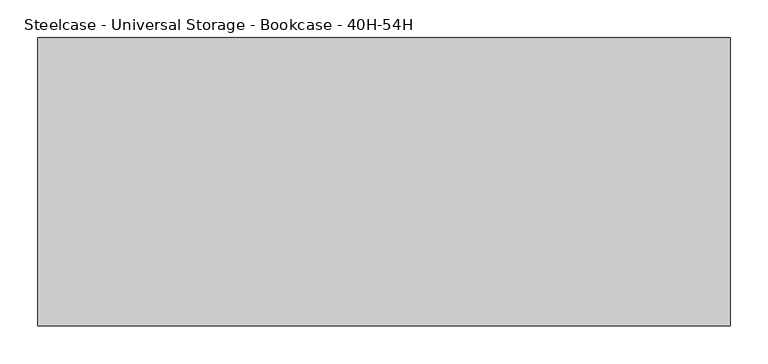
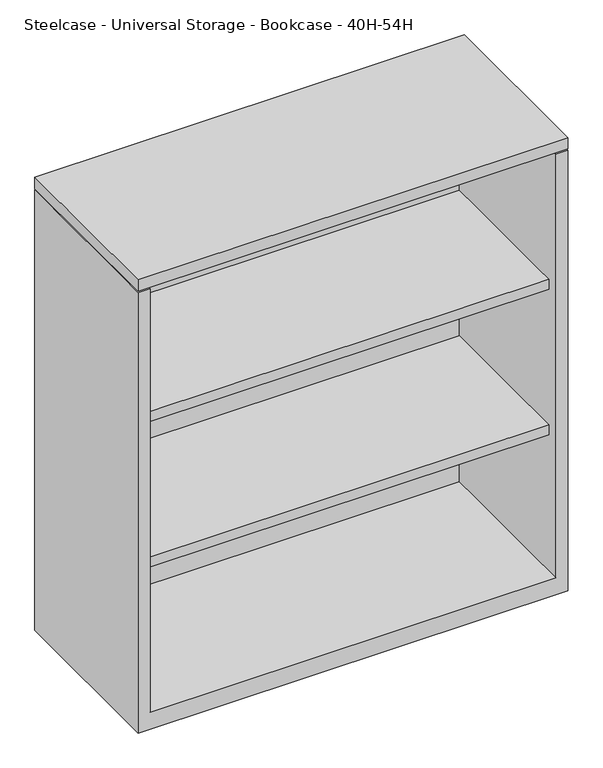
"""IFC4 building model written with IfcOpenShell, lengths in millimetres: furniture geometry, Steelcase - Universal Storage - Bookcase - 40H-54H : 40H x 36W."""

from ifc_helpers import new_model, si_unit, frame, origin, place, context, project, spatial, polyline, outline, extrude, faceted_brep, source, transform, mapped, element, save


def steelcase_universal_storage_bookcase_40h_54h_a6b768bb(model_context):
    return source(origin(), model_context, "Body", "SolidModel", [
        extrude(outline(polyline([(914.4, -98.552), (914.4, -479.552), (0.0, -479.552), (0.0, -98.552), (914.4, -98.552)])), frame((0.0, 0.0, 993.6479031), z_axis=(0.0, 0.0, 1.0), x_axis=(1.0, 0.0, 0.0)), (0.0, 0.0, 1.0), 25.4000484),
        extrude(outline(polyline([(889.0000242, -123.9520008), (889.0000242, -454.0250121), (25.4000008, -454.0250121), (25.4000008, -123.9520008), (889.0000242, -123.9520008)])), frame((0.0, 0.0, 344.424), z_axis=(0.0, 0.0, 1.0), x_axis=(1.0, 0.0, 0.0)), (0.0, 0.0, 1.0), 22.2249516),
        extrude(outline(polyline([(889.0000242, -123.9520008), (889.0000242, -454.0250121), (25.4000008, -454.0250121), (25.4000008, -123.9520008), (889.0000242, -123.9520008)])), frame((0.0, 0.0, 671.4489516), z_axis=(0.0, 0.0, 1.0), x_axis=(1.0, 0.0, 0.0)), (0.0, 0.0, 1.0), 22.2249516),
        faceted_brep([(25.4000008, -479.552, 38.1), (889.0000242, -479.552, 38.1), (889.0000242, -123.9520008, 38.1), (25.4000008, -123.9520008, 38.1), (914.4, -98.552, 0.0), (914.4, -479.552, 0.0), (0.0, -479.552, 0.0), (0.0, -98.552, 0.0), (0.0, -98.552, 990.6), (914.4, -98.552, 990.6), (0.0, -479.552, 990.6), (914.4, -479.552, 990.6), (889.0000242, -479.552, 990.6), (25.4000008, -479.552, 990.6), (889.0000242, -123.9520008, 990.6), (25.4000008, -123.9520008, 990.6)], [[[0, 1, 2, 3]], [[4, 5, 6, 7]], [[4, 7, 8, 9]], [[8, 7, 6, 10]], [[10, 6, 5, 11, 12, 1, 0, 13]], [[11, 5, 4, 9]], [[14, 12, 11, 9, 8, 10, 13, 15]], [[12, 14, 2, 1]], [[15, 13, 0, 3]], [[14, 15, 3, 2]]]),
    ])


if __name__ == "__main__":
    model = new_model("IFC4")
    model_context = context("Model", 3, world=origin())
    ifc_project = project(units=[si_unit("LENGTHUNIT", "METRE", prefix="MILLI")], contexts=[model_context])
    site = spatial("IfcSite", under=ifc_project)
    building = spatial("IfcBuilding", under=site)
    placement = place(None, origin())
    steelcase_universal_storage_bookcase_40h_54h_shape = steelcase_universal_storage_bookcase_40h_54h_a6b768bb(model_context)
    element("IfcFurniture", 1, ObjectType="Steelcase - Universal Storage - Bookcase - 40H-54H : 40H x 36W", at=placement, inside=building, context=model_context, shape_type="MappedRepresentation", body=[
        mapped(steelcase_universal_storage_bookcase_40h_54h_shape, transform((0.0, 0.0, 0.0), x_axis=(1.0, 0.0, 0.0), y_axis=(0.0, 1.0, 0.0), z_axis=(0.0, 0.0, 1.0))),
    ])
    save(model, "model.ifc")
